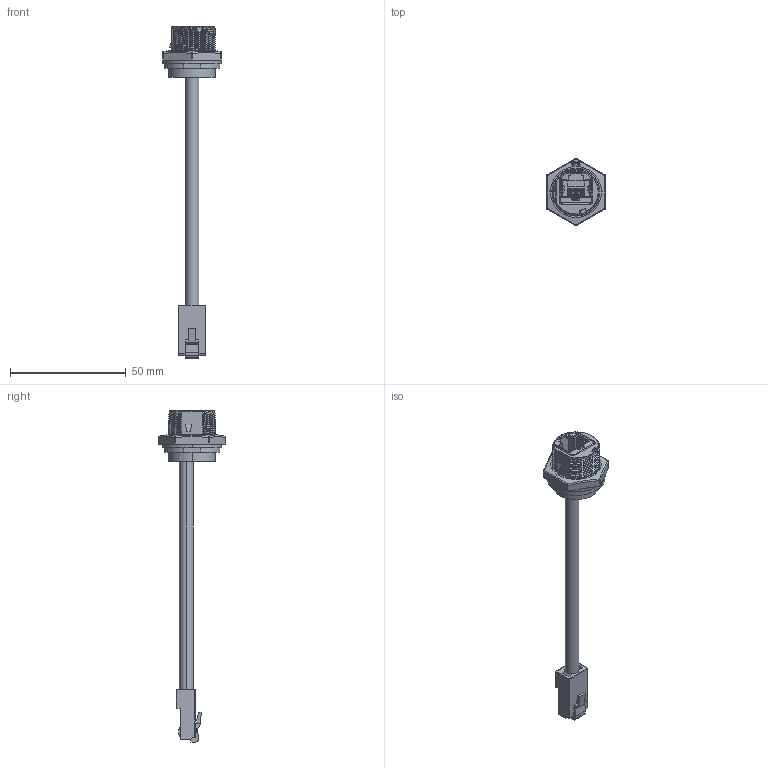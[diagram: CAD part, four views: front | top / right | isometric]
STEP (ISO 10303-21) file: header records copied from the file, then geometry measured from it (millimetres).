
FILE_DESCRIPTION (( 'STEP AP203' ), '1' );
FILE_NAME ('GT125300-03-XX.STEP', '2011-11-04T05:29:29', ( 'RD-07' ), ( '' ), 'SwSTEP 2.0', 'SolidWorks 2010', '' );
FILE_SCHEMA (( 'CONFIG_CONTROL_DESIGN' ));
Length unit declared in the file: millimetre
Products named in the file (18): 90125_Default; 58225-22002_Default; pin2_Default; 83006-M0303; 59125-01010; 65153-00010_Default; 83001-M0104; GT125300-03-XX; 60125-38102_Default; 60225-26101; 83001-F3105_Default; 83001-M0104(BASE); pin1_Default; 58125-22001_Default; 59225-01006_Default; EXPOXY_Default; 55708-00040_Default; 66153-00010_A2_Default
Assembly tree (25 placements, depth 4):
  GT125300-03-XX
    66153-00010_A2_Default
    60125-38102_Default
    58125-22001_Default
    EXPOXY_Default
    83001-M0104
    90125_Default
      58225-22002_Default
      60225-26101
      83001-F3105_Default
        pin2_Default  x4
        pin1_Default  x6
        83001-M0104(BASE)
    59225-01006_Default
    59125-01010
    65153-00010_Default
    83006-M0303
    55708-00040_Default
Bounding box: 25.4 x 29.17 x 143.5 mm (x, y, z)
Volume: 9948.1 mm3; surface area: 13246.2 mm2
Topology: 23 solids, 23 shells, 1358 faces, 3589 edges, 2275 vertices
Faces by surface type: plane 866, cylinder 323, bspline 81, torus 68, cone 10, sphere 10
Entity records: 49114 total; most frequent: CARTESIAN_POINT 16485, ORIENTED_EDGE 6746, DIRECTION 5769, EDGE_CURVE 3373, VECTOR 2395, LINE 2395, VERTEX_POINT 2161, AXIS2_PLACEMENT_3D 1687
